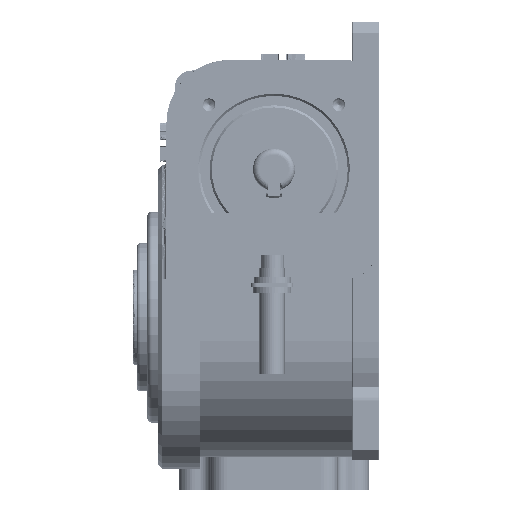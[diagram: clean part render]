
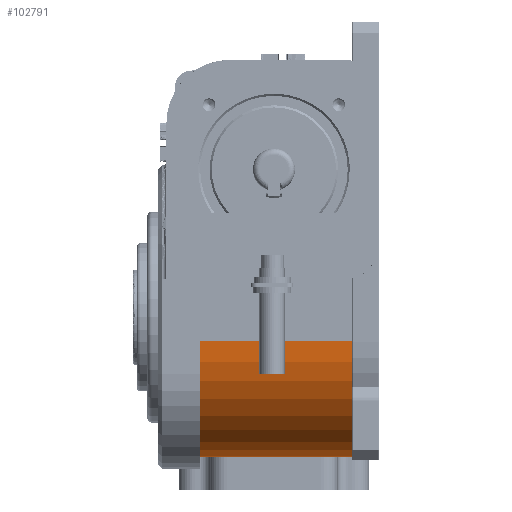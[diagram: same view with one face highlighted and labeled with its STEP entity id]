
A CAD part, left-side view. The second image highlights one B-rep face of the part: STEP entity #102791.
In plain terms, the highlighted cylindrical face has radius 55 mm (diameter 110 mm), a partial arc.
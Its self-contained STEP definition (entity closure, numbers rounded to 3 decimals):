
#2731 = CARTESIAN_POINT ( 'NONE',  ( -66.5, 85., -11.5 ) ) ;
#3331 = CARTESIAN_POINT ( 'NONE',  ( -11.5, 85., -11.5 ) ) ;
#5864 = CARTESIAN_POINT ( 'NONE',  ( -11.5, 13., -66.5 ) ) ;
#6311 = CIRCLE ( 'NONE', #14847, 55. ) ;
#13311 = DIRECTION ( 'NONE',  ( 0., 0., -1. ) ) ;
#13431 = VERTEX_POINT ( 'NONE', #2731 ) ;
#14847 = AXIS2_PLACEMENT_3D ( 'NONE', #3331, #72399, #13311 ) ;
#18536 = DIRECTION ( 'NONE',  ( 0., 0., -1. ) ) ;
#25730 = EDGE_CURVE ( 'NONE', #36949, #103403, #104296, .T. ) ;
#26119 = EDGE_CURVE ( 'NONE', #36949, #13431, #91925, .T. ) ;
#27789 = ORIENTED_EDGE ( 'NONE', *, *, #27823, .T. ) ;
#27823 = EDGE_CURVE ( 'NONE', #73842, #103403, #122337, .T. ) ;
#28425 = CARTESIAN_POINT ( 'NONE',  ( -11.5, 85., -11.5 ) ) ;
#32389 = ORIENTED_EDGE ( 'NONE', *, *, #26119, .T. ) ;
#36949 = VERTEX_POINT ( 'NONE', #127158 ) ;
#39405 = VECTOR ( 'NONE', #120316, 1000. ) ;
#46696 = FACE_OUTER_BOUND ( 'NONE', #87255, .T. ) ;
#49487 = AXIS2_PLACEMENT_3D ( 'NONE', #28425, #67727, #18536 ) ;
#54744 = DIRECTION ( 'NONE',  ( 0., -1., 0. ) ) ;
#67727 = DIRECTION ( 'NONE',  ( 0., -1., 0. ) ) ;
#70142 = EDGE_CURVE ( 'NONE', #13431, #73842, #6311, .T. ) ;
#72399 = DIRECTION ( 'NONE',  ( 0., -1., 0. ) ) ;
#73842 = VERTEX_POINT ( 'NONE', #82692 ) ;
#82692 = CARTESIAN_POINT ( 'NONE',  ( -11.5, 85., -66.5 ) ) ;
#87255 = EDGE_LOOP ( 'NONE', ( #93972, #32389, #123771, #27789 ) ) ;
#91925 = LINE ( 'NONE', #100892, #39405 ) ;
#93393 = VECTOR ( 'NONE', #116435, 1000. ) ;
#93972 = ORIENTED_EDGE ( 'NONE', *, *, #25730, .F. ) ;
#96850 = CARTESIAN_POINT ( 'NONE',  ( -11.5, 85., -66.5 ) ) ;
#100892 = CARTESIAN_POINT ( 'NONE',  ( -66.5, 85., -11.5 ) ) ;
#102791 = ADVANCED_FACE ( 'NONE', ( #46696 ), #121928, .T. ) ;
#103403 = VERTEX_POINT ( 'NONE', #5864 ) ;
#104296 = CIRCLE ( 'NONE', #106363, 55. ) ;
#106363 = AXIS2_PLACEMENT_3D ( 'NONE', #113654, #54744, #123296 ) ;
#113654 = CARTESIAN_POINT ( 'NONE',  ( -11.5, 13., -11.5 ) ) ;
#116435 = DIRECTION ( 'NONE',  ( 0., -1., 0. ) ) ;
#120316 = DIRECTION ( 'NONE',  ( 0., 1., 0. ) ) ;
#121928 = CYLINDRICAL_SURFACE ( 'NONE', #49487, 55. ) ;
#122337 = LINE ( 'NONE', #96850, #93393 ) ;
#123296 = DIRECTION ( 'NONE',  ( 0., 0., -1. ) ) ;
#123771 = ORIENTED_EDGE ( 'NONE', *, *, #70142, .T. ) ;
#127158 = CARTESIAN_POINT ( 'NONE',  ( -66.5, 13., -11.5 ) ) ;
